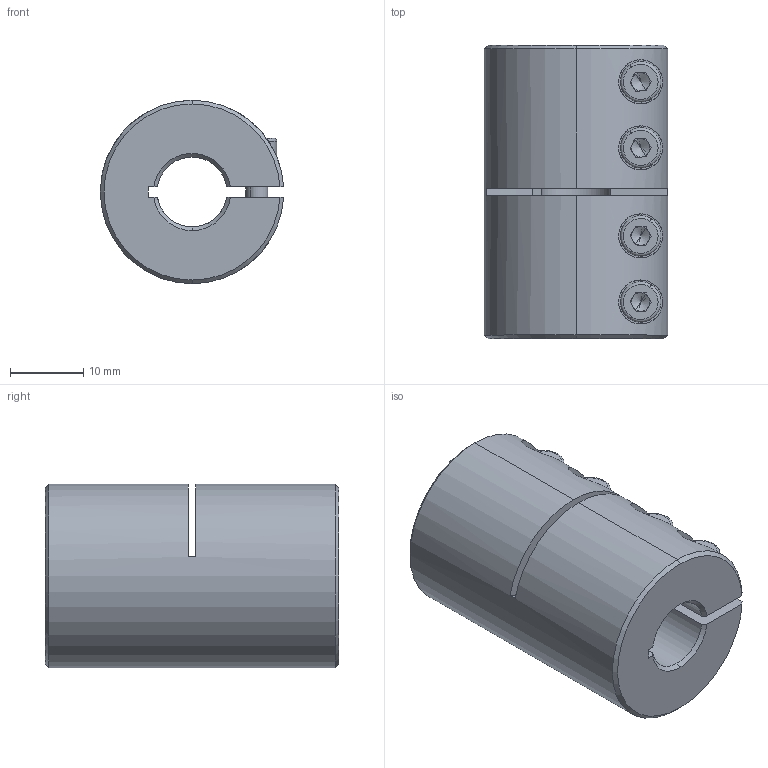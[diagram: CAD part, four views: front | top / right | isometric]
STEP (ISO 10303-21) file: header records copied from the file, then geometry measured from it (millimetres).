
FILE_DESCRIPTION (( 'STEP AP214' ), '1' );
FILE_NAME ('LL-B-D25L40-9.525-9.525½¨Ä£.STEP', '2022-07-21T05:18:11', ( '' ), ( '' ), 'SwSTEP 2.0', 'SolidWorks 2022', '' );
FILE_SCHEMA (( 'AUTOMOTIVE_DESIGN' ));
Length unit declared in the file: millimetre
Products named in the file (1): LL-B-D25L40-9.525-9.525膘耀
Bounding box: 24.98 x 40 x 25 mm (x, y, z)
Volume: 15705.8 mm3; surface area: 7110.3 mm2
Topology: 1 solids, 1 shells, 173 faces, 440 edges, 277 vertices
Faces by surface type: plane 83, cylinder 62, cone 20, torus 8
Entity records: 5667 total; most frequent: CARTESIAN_POINT 1407, DIRECTION 915, ORIENTED_EDGE 864, EDGE_CURVE 432, AXIS2_PLACEMENT_3D 353, VERTEX_POINT 277, LINE 209, VECTOR 209
